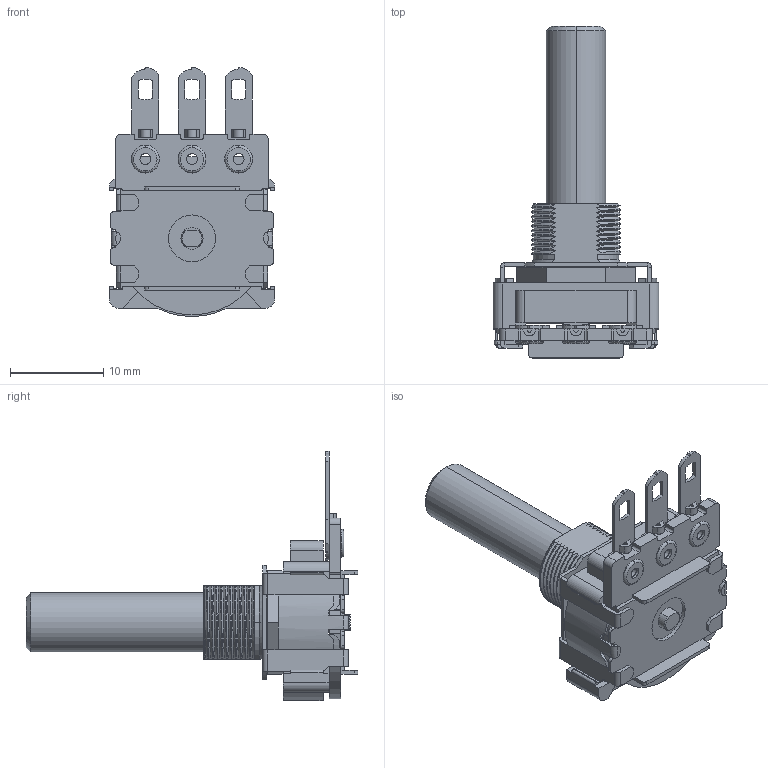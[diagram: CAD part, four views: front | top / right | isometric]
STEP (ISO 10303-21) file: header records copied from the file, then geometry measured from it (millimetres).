
FILE_DESCRIPTION (( 'STEP AP214' ), '1' );
FILE_NAME ('288T232R161A1.STEP', '2019-05-24T08:35:56', ( '' ), ( '' ), 'SwSTEP 2.0', 'SolidWorks 2019', '' );
FILE_SCHEMA (( 'AUTOMOTIVE_DESIGN' ));
Length unit declared in the file: millimetre
Products named in the file (8): 280-08-T01; 280-01-016-30-01(.093); 288T232R161A1; 280-07-001-01-53; 280-18-T05-01-37roll over add rib; 280-02-T06-40-01B; 280E-E-2300; 280S-ER-11079-32
Assembly tree (10 placements, depth 2):
  288T232R161A1
    280-01-016-30-01(.093)
    280-18-T05-01-37roll over add rib  x4
    280-02-T06-40-01B
    280E-E-2300
    280-08-T01
    280-07-001-01-53
    280S-ER-11079-32
Bounding box: 17.78 x 35.61 x 26.72 mm (x, y, z)
Volume: 2341.1 mm3; surface area: 4440.7 mm2
Topology: 10 solids, 10 shells, 935 faces, 2652 edges, 1740 vertices
Faces by surface type: plane 622, cylinder 217, bspline 62, torus 18, cone 16
Entity records: 34206 total; most frequent: CARTESIAN_POINT 18484, ORIENTED_EDGE 3474, DIRECTION 2922, EDGE_CURVE 1737, VERTEX_POINT 1140, VECTOR 1090, LINE 1090, AXIS2_PLACEMENT_3D 916
